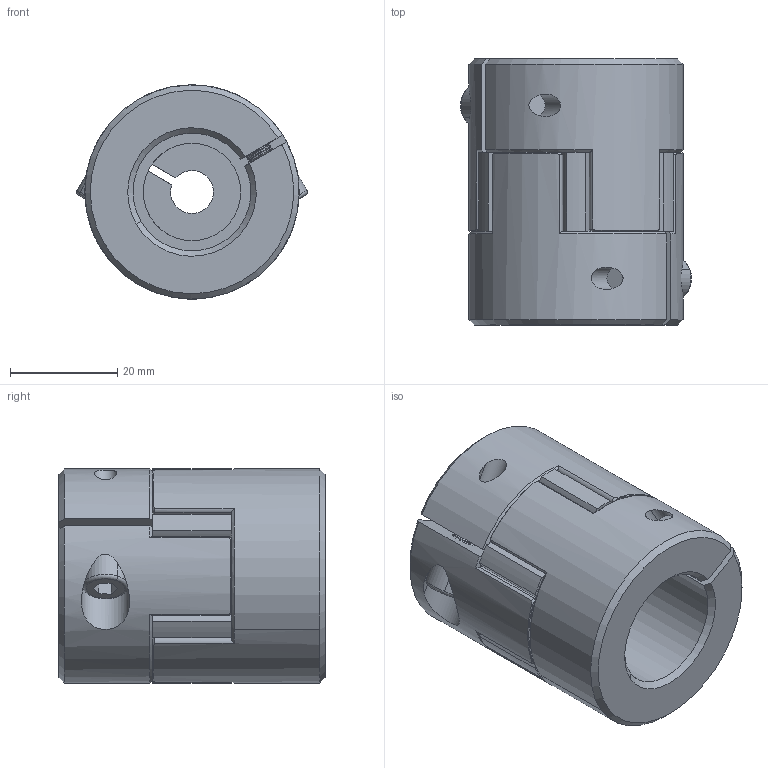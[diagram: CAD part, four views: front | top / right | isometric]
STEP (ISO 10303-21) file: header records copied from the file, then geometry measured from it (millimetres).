
FILE_DESCRIPTION (( 'STEP AP203' ), '1' );
FILE_NAME ('LF-B-D40L50-8-22.STEP', '2021-10-25T02:37:30', ( '' ), ( '' ), 'SwSTEP 2.0', 'SolidWorks 2018', '' );
FILE_SCHEMA (( 'CONFIG_CONTROL_DESIGN' ));
Length unit declared in the file: millimetre
Products named in the file (1): LF-B-D40L50-8-22
Bounding box: 43.11 x 49.7 x 40 mm (x, y, z)
Volume: 49423.2 mm3; surface area: 14715.7 mm2
Topology: 1 solids, 7 shells, 470 faces, 1113 edges, 660 vertices
Faces by surface type: cone 170, cylinder 169, plane 127, torus 4
Entity records: 13932 total; most frequent: CARTESIAN_POINT 2888, DIRECTION 2501, ORIENTED_EDGE 2218, EDGE_CURVE 1109, AXIS2_PLACEMENT_3D 1037, VERTEX_POINT 660, CIRCLE 566, EDGE_LOOP 487
